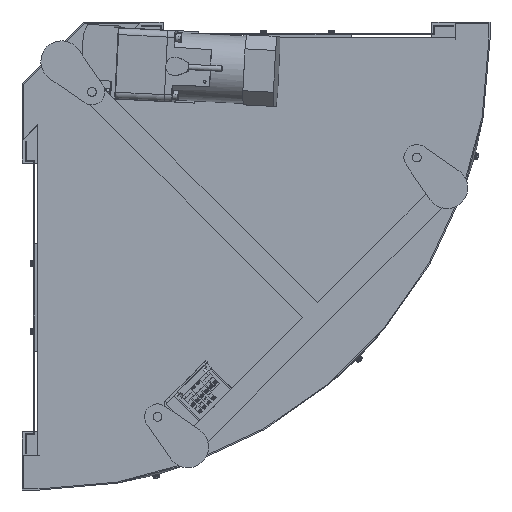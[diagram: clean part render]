
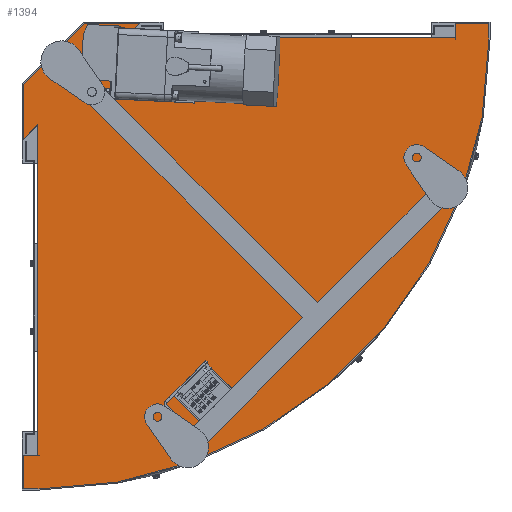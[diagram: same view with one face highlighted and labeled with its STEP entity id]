
A CAD part, front view. The second image highlights one B-rep face of the part: STEP entity #1394.
In plain terms, the highlighted planar face has unit normal (0, -1, 0).
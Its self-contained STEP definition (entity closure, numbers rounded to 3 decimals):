
#1394=ADVANCED_FACE('',(#3730),#3729,.F.);
#3729=PLANE('',#18971);
#3730=FACE_OUTER_BOUND('',#18972,.T.);
#18968=CARTESIAN_POINT('',(-33.4,-145.7,-671.5));
#18969=DIRECTION('',(0.,1.,0.));
#18970=DIRECTION('',(0.,0.,1.));
#18971=AXIS2_PLACEMENT_3D('',#18968,#18969,#18970);
#18972=EDGE_LOOP('',(#28889,#28890,#28891,#28892,#28893,#28894,#28895,#28896,#28897,#28898,#28899,#28900,#28901,#28902,#28903,#28904));
#28889=ORIENTED_EDGE('',*,*,#36460,.F.);
#28890=ORIENTED_EDGE('',*,*,#36598,.F.);
#28891=ORIENTED_EDGE('',*,*,#36599,.T.);
#28892=ORIENTED_EDGE('',*,*,#36544,.T.);
#28893=ORIENTED_EDGE('',*,*,#36542,.T.);
#28894=ORIENTED_EDGE('',*,*,#36546,.T.);
#28895=ORIENTED_EDGE('',*,*,#36600,.T.);
#28896=ORIENTED_EDGE('',*,*,#36601,.F.);
#28897=ORIENTED_EDGE('',*,*,#36602,.F.);
#28898=ORIENTED_EDGE('',*,*,#36569,.T.);
#28899=ORIENTED_EDGE('',*,*,#36562,.T.);
#28900=ORIENTED_EDGE('',*,*,#36559,.T.);
#28901=ORIENTED_EDGE('',*,*,#36556,.T.);
#28902=ORIENTED_EDGE('',*,*,#36553,.T.);
#28903=ORIENTED_EDGE('',*,*,#36550,.T.);
#28904=ORIENTED_EDGE('',*,*,#36577,.T.);
#36460=EDGE_CURVE('',#40855,#40840,#40862,.T.);
#36542=EDGE_CURVE('',#41397,#41404,#41411,.T.);
#36544=EDGE_CURVE('',#41417,#41397,#41424,.T.);
#36546=EDGE_CURVE('',#41404,#41430,#41437,.T.);
#36550=EDGE_CURVE('',#41443,#41458,#41465,.T.);
#36553=EDGE_CURVE('',#41471,#41443,#41485,.T.);
#36556=EDGE_CURVE('',#41491,#41471,#41505,.T.);
#36559=EDGE_CURVE('',#41511,#41491,#41525,.T.);
#36562=EDGE_CURVE('',#41531,#41511,#41545,.T.);
#36569=EDGE_CURVE('',#41591,#41531,#41592,.T.);
#36577=EDGE_CURVE('',#41458,#40840,#41644,.T.);
#36598=EDGE_CURVE('',#41781,#40855,#41782,.T.);
#36599=EDGE_CURVE('',#41781,#41417,#41788,.T.);
#36600=EDGE_CURVE('',#41430,#41794,#41795,.T.);
#36601=EDGE_CURVE('',#41801,#41794,#41802,.T.);
#36602=EDGE_CURVE('',#41591,#41801,#41808,.T.);
#40840=VERTEX_POINT('',#67339);
#40855=VERTEX_POINT('',#67349);
#40862=CIRCLE('',#67356,612.5);
#41397=VERTEX_POINT('',#67687);
#41404=VERTEX_POINT('',#67691);
#41411=LINE('',#67695,#67696);
#41417=VERTEX_POINT('',#67698);
#41424=LINE('',#67702,#67703);
#41430=VERTEX_POINT('',#67705);
#41437=LINE('',#67709,#67710);
#41443=VERTEX_POINT('',#67712);
#41458=VERTEX_POINT('',#67721);
#41465=LINE('',#67725,#67726);
#41471=VERTEX_POINT('',#67728);
#41485=LINE('',#67736,#67737);
#41491=VERTEX_POINT('',#67739);
#41505=CIRCLE('',#67751,661.5);
#41511=VERTEX_POINT('',#67752);
#41525=LINE('',#67760,#67761);
#41531=VERTEX_POINT('',#67763);
#41545=LINE('',#67771,#67772);
#41591=VERTEX_POINT('',#67796);
#41592=LINE('',#67797,#67798);
#41644=LINE('',#67827,#67828);
#41781=VERTEX_POINT('',#67903);
#41782=LINE('',#67904,#67905);
#41788=LINE('',#67907,#67908);
#41794=VERTEX_POINT('',#67910);
#41795=LINE('',#67911,#67912);
#41801=VERTEX_POINT('',#67914);
#41802=LINE('',#67915,#67916);
#41808=CIRCLE('',#67921,612.5);
#67339=CARTESIAN_POINT('',(612.5,-145.7,0.));
#67349=CARTESIAN_POINT('',(612.498,-145.7,1.544));
#67353=CARTESIAN_POINT('',(0.,-145.7,0.));
#67354=DIRECTION('',(0.,1.,0.));
#67355=DIRECTION('',(0.,0.,-1.));
#67356=AXIS2_PLACEMENT_3D('',#67353,#67354,#67355);
#67687=CARTESIAN_POINT('',(66.663,-145.7,23.4));
#67691=CARTESIAN_POINT('',(-23.4,-145.7,-66.663));
#67695=CARTESIAN_POINT('',(66.663,-145.7,23.4));
#67696=VECTOR('',#67697,127.368);
#67697=DIRECTION('',(-0.707,0.,-0.707));
#67698=CARTESIAN_POINT('',(147.5,-145.7,23.4));
#67702=CARTESIAN_POINT('',(147.5,-145.7,23.4));
#67703=VECTOR('',#67704,80.837);
#67704=DIRECTION('',(-1.,0.,0.));
#67705=CARTESIAN_POINT('',(-23.4,-145.7,-147.5));
#67709=CARTESIAN_POINT('',(-23.4,-145.7,-66.663));
#67710=VECTOR('',#67711,80.837);
#67711=DIRECTION('',(0.,0.,-1.));
#67712=CARTESIAN_POINT('',(661.5,-145.7,23.4));
#67721=CARTESIAN_POINT('',(612.5,-145.7,23.4));
#67725=CARTESIAN_POINT('',(661.5,-145.7,23.4));
#67726=VECTOR('',#67727,49.);
#67727=DIRECTION('',(-1.,0.,0.));
#67728=CARTESIAN_POINT('',(661.5,-145.7,0.));
#67736=CARTESIAN_POINT('',(661.5,-145.7,0.));
#67737=VECTOR('',#67738,23.4);
#67738=DIRECTION('',(0.,0.,1.));
#67739=CARTESIAN_POINT('',(0.,-145.7,-661.5));
#67748=CARTESIAN_POINT('',(0.,-145.7,0.));
#67749=DIRECTION('',(0.,-1.,0.));
#67750=DIRECTION('',(0.,0.,-1.));
#67751=AXIS2_PLACEMENT_3D('',#67748,#67749,#67750);
#67752=CARTESIAN_POINT('',(-23.4,-145.7,-661.5));
#67760=CARTESIAN_POINT('',(-23.4,-145.7,-661.5));
#67761=VECTOR('',#67762,23.4);
#67762=DIRECTION('',(1.,0.,0.));
#67763=CARTESIAN_POINT('',(-23.4,-145.7,-612.5));
#67771=CARTESIAN_POINT('',(-23.4,-145.7,-612.5));
#67772=VECTOR('',#67773,49.);
#67773=DIRECTION('',(0.,0.,-1.));
#67796=CARTESIAN_POINT('',(0.,-145.7,-612.5));
#67797=CARTESIAN_POINT('',(0.,-145.7,-612.5));
#67798=VECTOR('',#67799,23.4);
#67799=DIRECTION('',(-1.,0.,0.));
#67827=CARTESIAN_POINT('',(612.5,-145.7,23.4));
#67828=VECTOR('',#67829,23.4);
#67829=DIRECTION('',(0.,0.,-1.));
#67903=CARTESIAN_POINT('',(125.729,-145.7,1.629));
#67904=CARTESIAN_POINT('',(125.729,-145.7,1.629));
#67905=VECTOR('',#67906,486.769);
#67906=DIRECTION('',(1.,0.,0.));
#67907=CARTESIAN_POINT('',(125.729,-145.7,1.629));
#67908=VECTOR('',#67909,30.789);
#67909=DIRECTION('',(0.707,0.,0.707));
#67910=CARTESIAN_POINT('',(-1.629,-145.7,-125.729));
#67911=CARTESIAN_POINT('',(-23.4,-145.7,-147.5));
#67912=VECTOR('',#67913,30.789);
#67913=DIRECTION('',(0.707,0.,0.707));
#67914=CARTESIAN_POINT('',(-1.544,-145.7,-612.498));
#67915=CARTESIAN_POINT('',(-1.544,-145.7,-612.498));
#67916=VECTOR('',#67917,486.769);
#67917=DIRECTION('',(0.,0.,1.));
#67918=CARTESIAN_POINT('',(0.,-145.7,0.));
#67919=DIRECTION('',(0.,1.,0.));
#67920=DIRECTION('',(0.,0.,-1.));
#67921=AXIS2_PLACEMENT_3D('',#67918,#67919,#67920);
